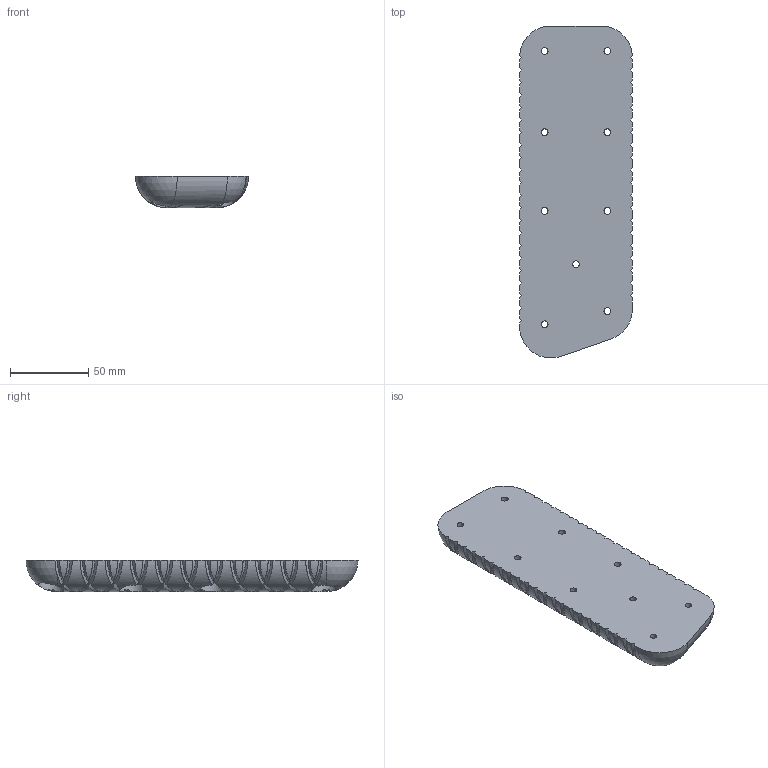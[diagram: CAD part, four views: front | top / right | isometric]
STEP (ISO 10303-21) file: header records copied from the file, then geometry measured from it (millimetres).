
FILE_DESCRIPTION(/* description */ ('STEP AP242 Edition 2','CAx-IF Rec.Pracs.---Representation and Presentation of Product Manufacturing Information (PMI)---4.0---2014-10-13','CAx-IF Rec.Pracs.---3D Tessellated Geometry---0.4---2014-09-14','2;1','CAx-IF Rec.Pracs.---User Defined Attributes---1.5---2016-08-15'),/* implementation_level */ '2;1');
FILE_NAME(/* name */ 'Assy_ForMFG - KD-D-601L_Foot Pad Left',/* time_stamp */ '2026-05-15T19:56:41Z',/* author */ (''),/* organization */ (''),/* preprocessor_version */ 'ST-DEVELOPER v20',/* originating_system */ 'ONSHAPE BY PTC INC, 1.215',/* authorisation */ ' ');
FILE_SCHEMA (('AP242_MANAGED_MODEL_BASED_3D_ENGINEERING_MIM_LF { 1 0 10303 442 3 1 4 }'));
Length unit declared in the file: metre
Products named in the file (1): KD-D-601L_Foot Pad Left
Bounding box: 72 x 211.88 x 20 mm (x, y, z)
Volume: 218694.7 mm3; surface area: 43230.1 mm2
Topology: 1 solids, 1 shells, 692 faces, 1675 edges, 985 vertices
Faces by surface type: bspline 324, plane 264, cylinder 99, sphere 5
Full cylindrical faces by diameter (mm): 4.3 x9, 16.5 x9
Entity records: 26783 total; most frequent: CARTESIAN_POINT 13495, ORIENTED_EDGE 3284, DIRECTION 1690, EDGE_CURVE 1642, VERTEX_POINT 973, B_SPLINE_CURVE_WITH_KNOTS 805, EDGE_LOOP 725, FACE_BOUND 725
